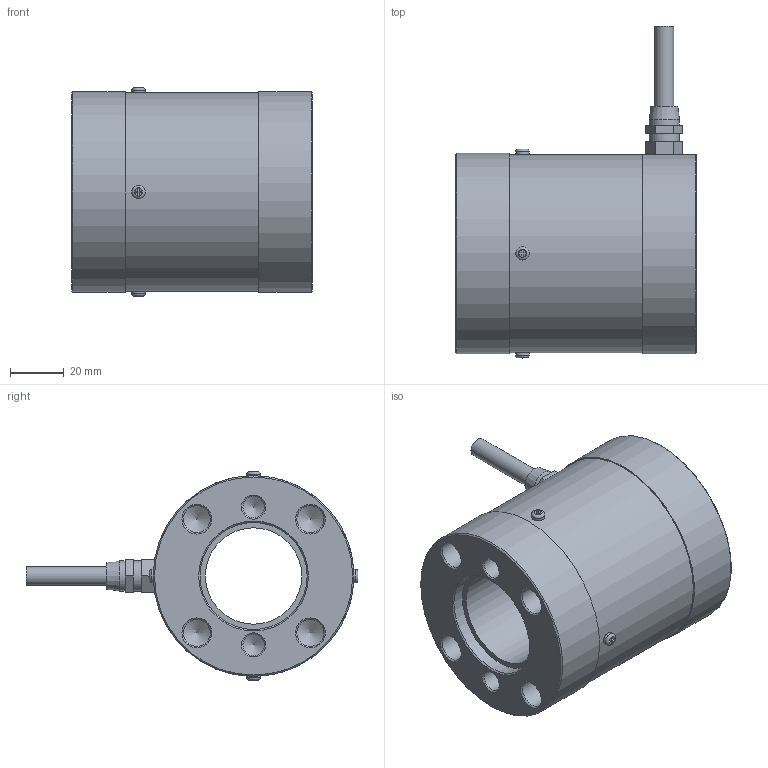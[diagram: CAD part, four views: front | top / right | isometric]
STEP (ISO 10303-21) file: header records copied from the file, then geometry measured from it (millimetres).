
FILE_DESCRIPTION((''),'2;1');
FILE_NAME('M:\Dokumentacja\RYSUNKI\BIBLIOTEKA\Belki\Belka SN3 500Nm.stp','2017-02-24T08:33:19',('Darek'),(''),'Autodesk Inventor 11','Autodesk Inventor 11','');
FILE_SCHEMA(('AUTOMOTIVE_DESIGN { 1 0 10303 214 1 1 1 1 }'));
Length unit declared in the file: millimetre
Products named in the file (1): Belka SN3 500Nm
Bounding box: 90 x 124 x 78 mm (x, y, z)
Volume: 287297.5 mm3; surface area: 45169.1 mm2
Topology: 5 solids, 5 shells, 156 faces, 403 edges, 263 vertices
Faces by surface type: plane 100, bspline 24, cone 15, cylinder 13, torus 4
Full cylindrical faces by diameter (mm): 5 x4, 7 x1, 11.3 x2, 36 x1, 40 x2, 74 x1, 75 x1
Entity records: 4641 total; most frequent: CARTESIAN_POINT 1327, ORIENTED_EDGE 654, DIRECTION 612, EDGE_CURVE 327, VERTEX_POINT 239, EDGE_LOOP 224, AXIS2_PLACEMENT_3D 218, VECTOR 176
